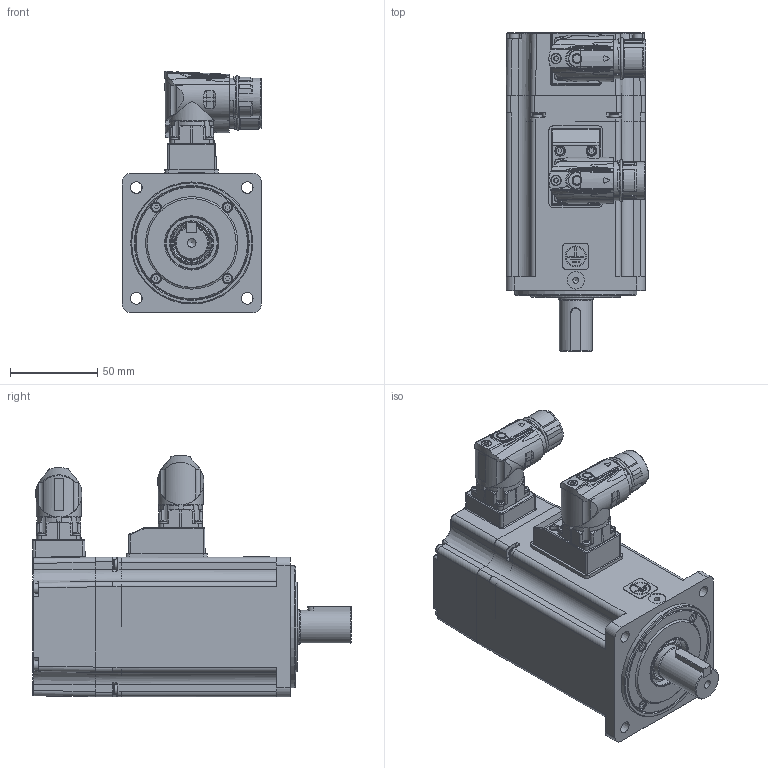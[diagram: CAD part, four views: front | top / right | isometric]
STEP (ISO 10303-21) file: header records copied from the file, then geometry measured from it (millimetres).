
FILE_DESCRIPTION( ( 'Unknown' ), '1' );
FILE_NAME( 'U:/05_Progetto TCE/010-TCE motor drawings/TCE80/vuoti/TCE80 3B XX 3 A1 0 C2.stp', 'Unknown', ( 'Unknown' ), ( 'Unknown' ), 'PSStep 17.0.49', 'Unknown', ' ' );
FILE_SCHEMA( ( 'AUTOMOTIVE_DESIGN { 1 0 10303 214 1 1 1 1 }' ) );
Length unit declared in the file: millimetre
Products named in the file (16): 005204000001
Bounding box: 80.3 x 183 x 138.5 mm (x, y, z)
Volume: 409162.8 mm3; surface area: 187888.9 mm2
Topology: 16 solids, 80 shells, 2885 faces, 7183 edges, 4596 vertices
Faces by surface type: plane 1374, cylinder 688, cone 266, bspline 230, torus 183, sphere 106, extrusion 38
Full cylindrical faces by diameter (mm): 1 x21, 1.2 x17, 1.4 x4, 2 x12, 2.013 x3, 2.2 x2, 2.459 x26, 2.5 x11, 2.65 x4, 2.7 x2, 2.8 x4, 3 x32, 3.2 x1, 3.242 x4, 3.5 x16, 4.4 x8, 4.5 x2, 4.7 x3, 4.917 x2, 5.5 x19, 5.8 x1, 5.9 x2, 6 x1, 6.8 x1, 8 x1, 10 x1, 11 x1, 12 x2, 13.3 x1, 14.99 x1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
Entity records: 115918 total; most frequent: CARTESIAN_POINT 32594, DIRECTION 12915, ORIENTED_EDGE 12554, EDGE_CURVE 6277, AXIS2_PLACEMENT_3D 4879, VERTEX_POINT 4369, EDGE_LOOP 3749, FACE_OUTER_BOUND 3283
